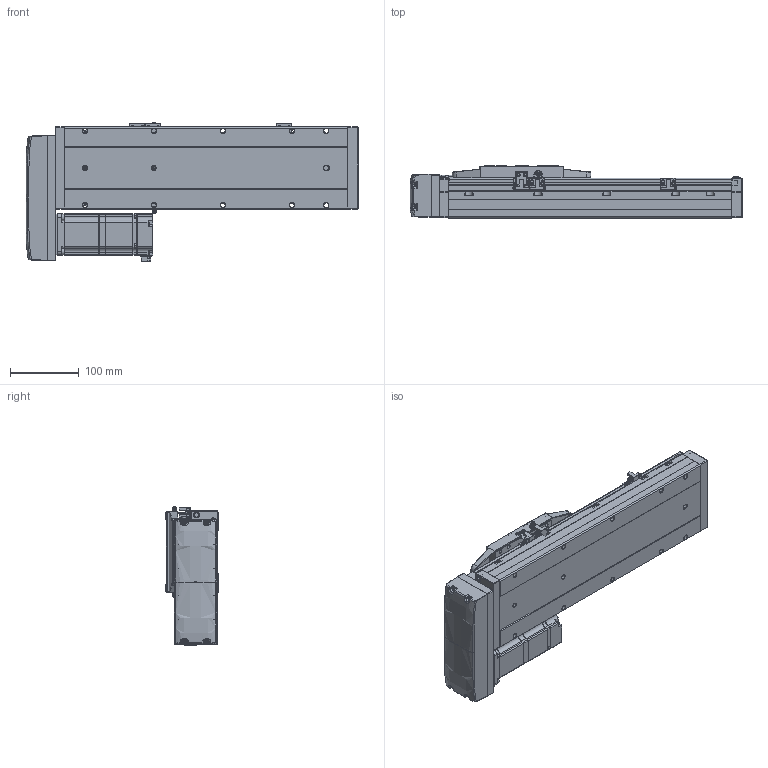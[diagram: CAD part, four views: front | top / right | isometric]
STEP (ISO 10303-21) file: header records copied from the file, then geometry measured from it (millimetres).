
FILE_DESCRIPTION (( 'STEP AP214' ), '1' );
FILE_NAME ('CTH12-L10-S200-BR-C40（简）.STEP', '2023-02-04T07:09:59', ( '' ), ( '' ), 'SwSTEP 2.0', 'SolidWorks 2018', '' );
FILE_SCHEMA (( 'AUTOMOTIVE_DESIGN' ));
Length unit declared in the file: millimetre
Products named in the file (24): CTH400W垫板（3个厚）; CTH12_body_3; CTH12-L10-S200-BR-C40（简）; 嫖萇羲壽郪磁1; CTH12底座-L411简（200行程）; CTH400W假蚾啣; CTH12侧装连接板（标准）简; M5蹟隊; hex nuts, style 1-grades ab gb_GB_FASTENER_NUT_SNAB1 M3-N; CTH12覜茼え; 内六角圆柱头螺钉M3; CTH12; 内六角圆柱头螺钉M3-2; 内六角圆柱头螺钉M3-1; CTH12賑怢ㄗ潠ㄘ; 嫖萇羲壽郪磁2; CTH12耜蚾裔; PM-Y45; 湮賑怢  裔赽-1(CTH12)賑怢; CTH12賑怢郪磁; 蚐郲; CTH嫖萇羲壽假蚾啣; CTH12-BL_body_4; AC60_Valor predeterminado
Assembly tree (44 placements, depth 4):
  CTH12-L10-S200-BR-C40（简）
    CTH12底座-L411简（200行程）
    蚐郲  x2
    CTH12_body_3
    CTH12-BL_body_4
    CTH12侧装连接板（标准）简
    CTH12耜蚾裔
    CTH12賑怢郪磁
      CTH12
        湮賑怢  裔赽-1(CTH12)賑怢
        CTH12賑怢ㄗ潠ㄘ
    CTH12覜茼え
    嫖萇羲壽郪磁1  x2
      CTH嫖萇羲壽假蚾啣
      PM-Y45
      内六角圆柱头螺钉M3-2
      内六角圆柱头螺钉M3-1
      hex nuts, style 1-grades ab gb_GB_FASTENER_NUT_SNAB1 M3-N
    嫖萇羲壽郪磁2
      CTH嫖萇羲壽假蚾啣
      PM-Y45
      内六角圆柱头螺钉M3-1  x2
      内六角圆柱头螺钉M3-2  x2
      hex nuts, style 1-grades ab gb_GB_FASTENER_NUT_SNAB1 M3-N  x2
    CTH400W垫板（3个厚）
    AC60_Valor predeterminado
    内六角圆柱头螺钉M3  x6
    M5蹟隊  x4
    CTH400W假蚾啣
Bounding box: 481.5 x 76 x 201.06 mm (x, y, z)
Volume: 3737362.1 mm3; surface area: 458601.6 mm2
Topology: 47 solids, 48 shells, 2663 faces, 6780 edges, 4335 vertices
Faces by surface type: plane 1471, cylinder 753, cone 295, bspline 92, torus 52
Entity records: 76093 total; most frequent: CARTESIAN_POINT 20646, ORIENTED_EDGE 10740, DIRECTION 10425, EDGE_CURVE 5370, AXIS2_PLACEMENT_3D 3512, VERTEX_POINT 3439, LINE 3401, VECTOR 3401
